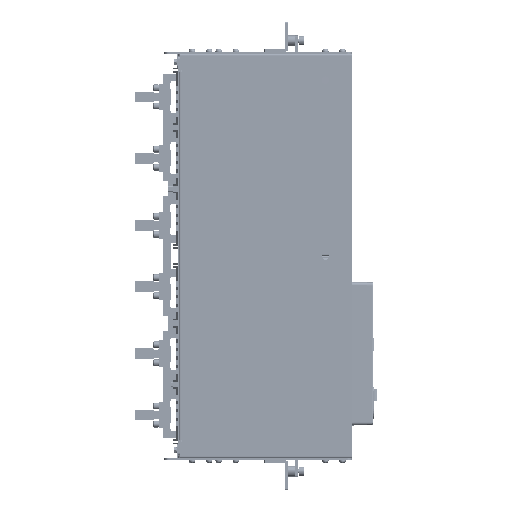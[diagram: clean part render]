
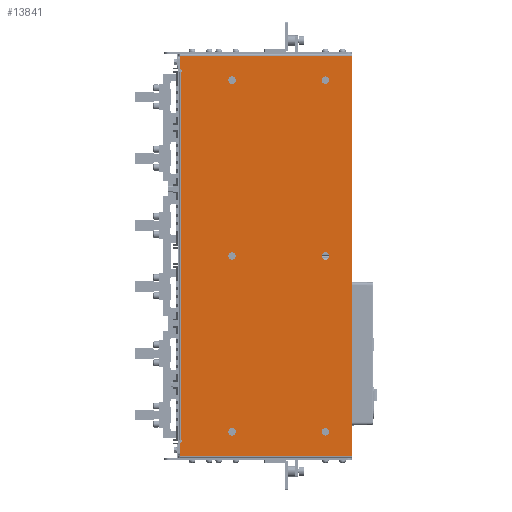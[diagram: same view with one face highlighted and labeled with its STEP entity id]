
A CAD part, front view. The second image highlights one B-rep face of the part: STEP entity #13841.
In plain terms, the highlighted planar face has unit normal (0, -1, 0).
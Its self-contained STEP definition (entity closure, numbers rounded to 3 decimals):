
#12311=DIRECTION('',(0.,0.,1.));
#12312=VECTOR('',#12311,2.2);
#12313=CARTESIAN_POINT('',(-533.2,-3.2,157.7));
#12314=LINE('',#12313,#12312);
#12323=CARTESIAN_POINT('',(-534.2,-3.2,159.9));
#12324=DIRECTION('',(0.,1.,0.));
#12325=DIRECTION('',(0.,0.,1.));
#12326=AXIS2_PLACEMENT_3D('',#12323,#12324,#12325);
#12328=DIRECTION('',(1.,0.,0.));
#12329=VECTOR('',#12328,4.);
#12330=CARTESIAN_POINT('',(-533.2,-3.2,157.7));
#12331=LINE('',#12330,#12329);
#12332=DIRECTION('',(0.,0.,1.));
#12333=VECTOR('',#12332,2.7);
#12334=CARTESIAN_POINT('',(-529.2,-3.2,157.7));
#12335=LINE('',#12334,#12333);
#12336=DIRECTION('',(0.,0.,-1.));
#12337=VECTOR('',#12336,2.7);
#12338=CARTESIAN_POINT('',(162.,-3.2,160.4));
#12339=LINE('',#12338,#12337);
#12340=DIRECTION('',(1.,0.,0.));
#12341=VECTOR('',#12340,4.);
#12342=CARTESIAN_POINT('',(162.,-3.2,157.7));
#12343=LINE('',#12342,#12341);
#12344=DIRECTION('',(0.,0.,1.));
#12345=VECTOR('',#12344,2.2);
#12346=CARTESIAN_POINT('',(166.,-3.2,157.7));
#12347=LINE('',#12346,#12345);
#12348=CARTESIAN_POINT('',(167.,-3.2,159.9));
#12349=DIRECTION('',(0.,1.,0.));
#12350=DIRECTION('',(-1.,0.,0.));
#12351=AXIS2_PLACEMENT_3D('',#12348,#12349,#12350);
#12353=DIRECTION('',(-1.,0.,0.));
#12354=VECTOR('',#12353,752.4);
#12355=CARTESIAN_POINT('',(192.6,-3.2,-160.9));
#12356=LINE('',#12355,#12354);
#12357=CARTESIAN_POINT('',(146.4,-3.2,64.1));
#12358=DIRECTION('',(0.,-1.,0.));
#12359=DIRECTION('',(-1.,0.,0.));
#12360=AXIS2_PLACEMENT_3D('',#12357,#12358,#12359);
#12362=CARTESIAN_POINT('',(146.4,-3.2,64.1));
#12363=DIRECTION('',(0.,-1.,0.));
#12364=DIRECTION('',(1.,0.,0.));
#12365=AXIS2_PLACEMENT_3D('',#12362,#12363,#12364);
#12367=CARTESIAN_POINT('',(-513.6,-3.2,64.1));
#12368=DIRECTION('',(0.,-1.,0.));
#12369=DIRECTION('',(-1.,0.,0.));
#12370=AXIS2_PLACEMENT_3D('',#12367,#12368,#12369);
#12372=CARTESIAN_POINT('',(-513.6,-3.2,64.1));
#12373=DIRECTION('',(0.,-1.,0.));
#12374=DIRECTION('',(1.,0.,0.));
#12375=AXIS2_PLACEMENT_3D('',#12372,#12373,#12374);
#12377=CARTESIAN_POINT('',(-183.6,-3.2,64.1));
#12378=DIRECTION('',(0.,-1.,0.));
#12379=DIRECTION('',(-1.,0.,0.));
#12380=AXIS2_PLACEMENT_3D('',#12377,#12378,#12379);
#12382=CARTESIAN_POINT('',(-183.6,-3.2,64.1));
#12383=DIRECTION('',(0.,-1.,0.));
#12384=DIRECTION('',(1.,0.,0.));
#12385=AXIS2_PLACEMENT_3D('',#12382,#12383,#12384);
#12387=CARTESIAN_POINT('',(146.4,-3.2,-110.9));
#12388=DIRECTION('',(0.,-1.,0.));
#12389=DIRECTION('',(-1.,0.,0.));
#12390=AXIS2_PLACEMENT_3D('',#12387,#12388,#12389);
#12392=CARTESIAN_POINT('',(146.4,-3.2,-110.9));
#12393=DIRECTION('',(0.,-1.,0.));
#12394=DIRECTION('',(1.,0.,0.));
#12395=AXIS2_PLACEMENT_3D('',#12392,#12393,#12394);
#12397=CARTESIAN_POINT('',(-183.6,-3.2,-110.9));
#12398=DIRECTION('',(0.,-1.,0.));
#12399=DIRECTION('',(-1.,0.,0.));
#12400=AXIS2_PLACEMENT_3D('',#12397,#12398,#12399);
#12402=CARTESIAN_POINT('',(-183.6,-3.2,-110.9));
#12403=DIRECTION('',(0.,-1.,0.));
#12404=DIRECTION('',(1.,0.,0.));
#12405=AXIS2_PLACEMENT_3D('',#12402,#12403,#12404);
#12407=CARTESIAN_POINT('',(-513.6,-3.2,-110.9));
#12408=DIRECTION('',(0.,-1.,0.));
#12409=DIRECTION('',(-1.,0.,0.));
#12410=AXIS2_PLACEMENT_3D('',#12407,#12408,#12409);
#12412=CARTESIAN_POINT('',(-513.6,-3.2,-110.9));
#12413=DIRECTION('',(0.,-1.,0.));
#12414=DIRECTION('',(1.,0.,0.));
#12415=AXIS2_PLACEMENT_3D('',#12412,#12413,#12414);
#12439=DIRECTION('',(-1.,0.,0.));
#12440=VECTOR('',#12439,691.2);
#12441=CARTESIAN_POINT('',(162.,-3.2,160.4));
#12442=LINE('',#12441,#12440);
#12567=DIRECTION('',(-1.,0.,0.));
#12568=VECTOR('',#12567,25.6);
#12569=CARTESIAN_POINT('',(192.6,-3.2,160.9));
#12570=LINE('',#12569,#12568);
#12773=DIRECTION('',(0.,0.,1.));
#12774=VECTOR('',#12773,321.8);
#12775=CARTESIAN_POINT('',(192.6,-3.2,-160.9));
#12776=LINE('',#12775,#12774);
#12883=DIRECTION('',(0.,0.,-1.));
#12884=VECTOR('',#12883,321.8);
#12885=CARTESIAN_POINT('',(-559.8,-3.2,160.9));
#12886=LINE('',#12885,#12884);
#13014=DIRECTION('',(-1.,0.,0.));
#13015=VECTOR('',#13014,25.6);
#13016=CARTESIAN_POINT('',(-534.2,-3.2,160.9));
#13017=LINE('',#13016,#13015);
#13142=CARTESIAN_POINT('',(-559.8,-3.2,-160.9));
#13143=VERTEX_POINT('',#13142);
#13144=CARTESIAN_POINT('',(192.6,-3.2,-160.9));
#13145=VERTEX_POINT('',#13144);
#13344=CARTESIAN_POINT('',(-534.2,-3.2,160.9));
#13346=VERTEX_POINT('',#13344);
#13348=CARTESIAN_POINT('',(-559.8,-3.2,160.9));
#13349=VERTEX_POINT('',#13348);
#13353=CARTESIAN_POINT('',(167.,-3.2,160.9));
#13355=VERTEX_POINT('',#13353);
#13358=CARTESIAN_POINT('',(192.6,-3.2,160.9));
#13359=VERTEX_POINT('',#13358);
#13362=CARTESIAN_POINT('',(-533.2,-3.2,159.9));
#13363=VERTEX_POINT('',#13362);
#13402=CARTESIAN_POINT('',(139.4,-3.2,64.1));
#13403=CARTESIAN_POINT('',(153.4,-3.2,64.1));
#13404=VERTEX_POINT('',#13402);
#13405=VERTEX_POINT('',#13403);
#13406=CARTESIAN_POINT('',(-533.2,-3.2,157.7));
#13407=VERTEX_POINT('',#13406);
#13408=CARTESIAN_POINT('',(-529.2,-3.2,157.7));
#13409=VERTEX_POINT('',#13408);
#13410=CARTESIAN_POINT('',(-529.2,-3.2,160.4));
#13411=VERTEX_POINT('',#13410);
#13412=CARTESIAN_POINT('',(162.,-3.2,160.4));
#13413=VERTEX_POINT('',#13412);
#13414=CARTESIAN_POINT('',(162.,-3.2,157.7));
#13415=VERTEX_POINT('',#13414);
#13416=CARTESIAN_POINT('',(166.,-3.2,157.7));
#13417=VERTEX_POINT('',#13416);
#13418=CARTESIAN_POINT('',(166.,-3.2,159.9));
#13419=VERTEX_POINT('',#13418);
#13420=CARTESIAN_POINT('',(-520.6,-3.2,64.1));
#13421=CARTESIAN_POINT('',(-506.6,-3.2,64.1));
#13422=VERTEX_POINT('',#13420);
#13423=VERTEX_POINT('',#13421);
#13424=CARTESIAN_POINT('',(-190.6,-3.2,64.1));
#13425=CARTESIAN_POINT('',(-176.6,-3.2,64.1));
#13426=VERTEX_POINT('',#13424);
#13427=VERTEX_POINT('',#13425);
#13428=CARTESIAN_POINT('',(139.4,-3.2,-110.9));
#13429=CARTESIAN_POINT('',(153.4,-3.2,-110.9));
#13430=VERTEX_POINT('',#13428);
#13431=VERTEX_POINT('',#13429);
#13432=CARTESIAN_POINT('',(-190.6,-3.2,-110.9));
#13433=CARTESIAN_POINT('',(-176.6,-3.2,-110.9));
#13434=VERTEX_POINT('',#13432);
#13435=VERTEX_POINT('',#13433);
#13436=CARTESIAN_POINT('',(-520.6,-3.2,-110.9));
#13437=CARTESIAN_POINT('',(-506.6,-3.2,-110.9));
#13438=VERTEX_POINT('',#13436);
#13439=VERTEX_POINT('',#13437);
#13774=CARTESIAN_POINT('',(-563.5,-3.2,-160.9));
#13775=DIRECTION('',(0.,-1.,0.));
#13776=DIRECTION('',(1.,0.,0.));
#13777=AXIS2_PLACEMENT_3D('',#13774,#13775,#13776);
#13778=PLANE('',#13777);
#13779=ORIENTED_EDGE('',*,*,#13739,.T.);
#13780=ORIENTED_EDGE('',*,*,#13755,.F.);
#13781=ORIENTED_EDGE('',*,*,#13765,.T.);
#13783=ORIENTED_EDGE('',*,*,#13782,.T.);
#13785=ORIENTED_EDGE('',*,*,#13784,.F.);
#13787=ORIENTED_EDGE('',*,*,#13786,.T.);
#13789=ORIENTED_EDGE('',*,*,#13788,.T.);
#13791=ORIENTED_EDGE('',*,*,#13790,.T.);
#13793=ORIENTED_EDGE('',*,*,#13792,.T.);
#13795=ORIENTED_EDGE('',*,*,#13794,.F.);
#13797=ORIENTED_EDGE('',*,*,#13796,.F.);
#13798=ORIENTED_EDGE('',*,*,#13475,.T.);
#13800=ORIENTED_EDGE('',*,*,#13799,.F.);
#13802=ORIENTED_EDGE('',*,*,#13801,.F.);
#13803=EDGE_LOOP('',(#13779,#13780,#13781,#13783,#13785,#13787,#13789,#13791,
#13793,#13795,#13797,#13798,#13800,#13802));
#13804=FACE_OUTER_BOUND('',#13803,.F.);
#13806=ORIENTED_EDGE('',*,*,#13805,.T.);
#13808=ORIENTED_EDGE('',*,*,#13807,.T.);
#13809=EDGE_LOOP('',(#13806,#13808));
#13810=FACE_BOUND('',#13809,.F.);
#13812=ORIENTED_EDGE('',*,*,#13811,.T.);
#13814=ORIENTED_EDGE('',*,*,#13813,.T.);
#13815=EDGE_LOOP('',(#13812,#13814));
#13816=FACE_BOUND('',#13815,.F.);
#13818=ORIENTED_EDGE('',*,*,#13817,.T.);
#13820=ORIENTED_EDGE('',*,*,#13819,.T.);
#13821=EDGE_LOOP('',(#13818,#13820));
#13822=FACE_BOUND('',#13821,.F.);
#13824=ORIENTED_EDGE('',*,*,#13823,.T.);
#13826=ORIENTED_EDGE('',*,*,#13825,.T.);
#13827=EDGE_LOOP('',(#13824,#13826));
#13828=FACE_BOUND('',#13827,.F.);
#13830=ORIENTED_EDGE('',*,*,#13829,.T.);
#13832=ORIENTED_EDGE('',*,*,#13831,.T.);
#13833=EDGE_LOOP('',(#13830,#13832));
#13834=FACE_BOUND('',#13833,.F.);
#13836=ORIENTED_EDGE('',*,*,#13835,.T.);
#13838=ORIENTED_EDGE('',*,*,#13837,.T.);
#13839=EDGE_LOOP('',(#13836,#13838));
#13840=FACE_BOUND('',#13839,.F.);
#13841=ADVANCED_FACE('',(#13804,#13810,#13816,#13822,#13828,#13834,#13840),
#13778,.T.);
#12327=CIRCLE('',#12326,1.);
#12352=CIRCLE('',#12351,1.);
#12361=CIRCLE('',#12360,7.);
#12366=CIRCLE('',#12365,7.);
#12371=CIRCLE('',#12370,7.);
#12376=CIRCLE('',#12375,7.);
#12381=CIRCLE('',#12380,7.);
#12386=CIRCLE('',#12385,7.);
#12391=CIRCLE('',#12390,7.);
#12396=CIRCLE('',#12395,7.);
#12401=CIRCLE('',#12400,7.);
#12406=CIRCLE('',#12405,7.);
#12411=CIRCLE('',#12410,7.);
#12416=CIRCLE('',#12415,7.);
#13475=EDGE_CURVE('',#13145,#13143,#12356,.T.);
#13739=EDGE_CURVE('',#13346,#13363,#12327,.T.);
#13755=EDGE_CURVE('',#13407,#13363,#12314,.T.);
#13765=EDGE_CURVE('',#13407,#13409,#12331,.T.);
#13782=EDGE_CURVE('',#13409,#13411,#12335,.T.);
#13784=EDGE_CURVE('',#13413,#13411,#12442,.T.);
#13786=EDGE_CURVE('',#13413,#13415,#12339,.T.);
#13788=EDGE_CURVE('',#13415,#13417,#12343,.T.);
#13790=EDGE_CURVE('',#13417,#13419,#12347,.T.);
#13792=EDGE_CURVE('',#13419,#13355,#12352,.T.);
#13794=EDGE_CURVE('',#13359,#13355,#12570,.T.);
#13796=EDGE_CURVE('',#13145,#13359,#12776,.T.);
#13799=EDGE_CURVE('',#13349,#13143,#12886,.T.);
#13801=EDGE_CURVE('',#13346,#13349,#13017,.T.);
#13805=EDGE_CURVE('',#13404,#13405,#12361,.T.);
#13807=EDGE_CURVE('',#13405,#13404,#12366,.T.);
#13811=EDGE_CURVE('',#13422,#13423,#12371,.T.);
#13813=EDGE_CURVE('',#13423,#13422,#12376,.T.);
#13817=EDGE_CURVE('',#13426,#13427,#12381,.T.);
#13819=EDGE_CURVE('',#13427,#13426,#12386,.T.);
#13823=EDGE_CURVE('',#13430,#13431,#12391,.T.);
#13825=EDGE_CURVE('',#13431,#13430,#12396,.T.);
#13829=EDGE_CURVE('',#13434,#13435,#12401,.T.);
#13831=EDGE_CURVE('',#13435,#13434,#12406,.T.);
#13835=EDGE_CURVE('',#13438,#13439,#12411,.T.);
#13837=EDGE_CURVE('',#13439,#13438,#12416,.T.);
